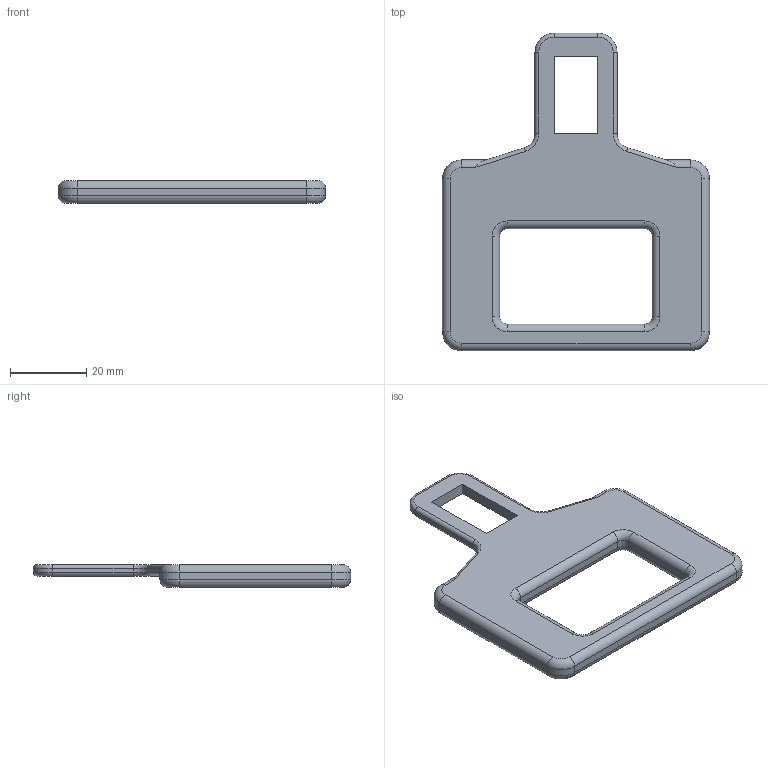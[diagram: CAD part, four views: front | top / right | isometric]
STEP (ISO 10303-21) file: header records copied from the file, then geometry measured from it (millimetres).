
FILE_DESCRIPTION (( 'STEP AP203' ), '1' );
FILE_NAME ('Front Seat Belt Buckle for Hyundai Tucson2021.STEP', '2025-01-06T13:48:15', ( '' ), ( '' ), 'SwSTEP 2.0', 'SolidWorks 2024', '' );
FILE_SCHEMA (( 'CONFIG_CONTROL_DESIGN' ));
Length unit declared in the file: millimetre
Products named in the file (1): Front Seat Belt Buckle for Hyundai Tucson2021
Bounding box: 70 x 83.19 x 6 mm (x, y, z)
Volume: 15853.1 mm3; surface area: 7855.6 mm2
Topology: 1 solids, 1 shells, 83 faces, 193 edges, 112 vertices
Faces by surface type: cylinder 39, torus 24, plane 20
Entity records: 2444 total; most frequent: DIRECTION 451, CARTESIAN_POINT 421, ORIENTED_EDGE 386, EDGE_CURVE 193, AXIS2_PLACEMENT_3D 180, VERTEX_POINT 112, CIRCLE 96, LINE 91
